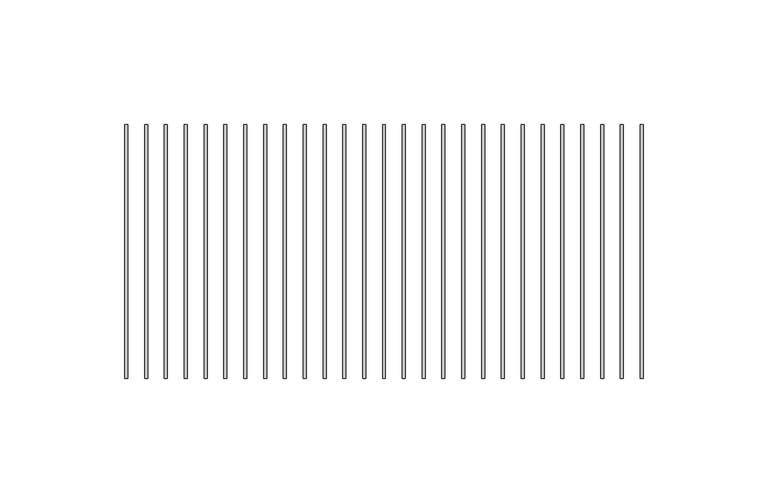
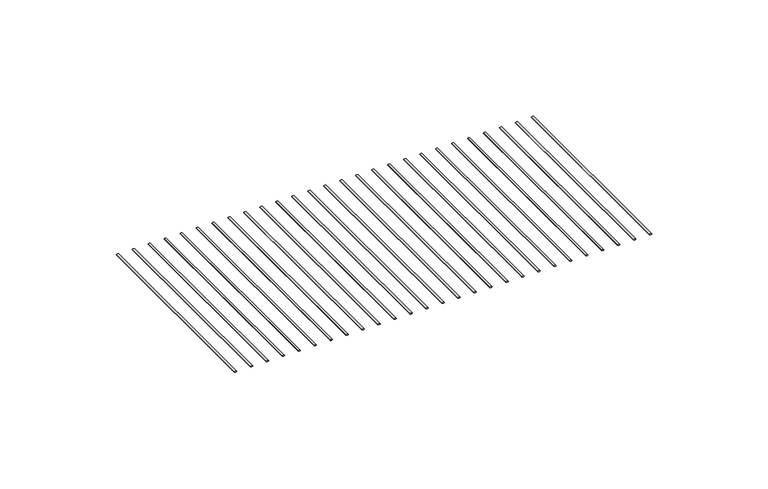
"""IFC4 building model written with IfcOpenShell, lengths in millimetres: proxy geometry, CRAi Generic Model Mesh Piece Face Based : CRAi Generic Model Mesh Piece Face Based."""

from ifc_helpers import new_model, si_unit, point, frame, origin, place, context, project, spatial, ellipse_curve, trimmed, source, transform, mapped, element, save
from ifc_brep_helpers import plane_surface, extruded_surface, advanced_brep


def generic_models_9b4c3a2c(model_context):
    return source(origin(), model_context, "Body", "AdvancedBrep", [
        advanced_brep(
        [(-45.8390625, 50.8, -2.5796875), (-44.6484375, 50.8, -2.5796875), (-45.8390625, -50.8, -2.5796875), (-44.6484375, -50.8, -2.5796875)],
        [
            (0, 1, ellipse_curve(frame((-45.24375, 50.8, -2.5796875), z_axis=(0.0, 1.0, 0.0), x_axis=(1.0, 0.0, 0.0)), 0.5953125, 0.1984375)),
            (1, 0, ellipse_curve(frame((-45.24375, 50.8, -2.5796875), z_axis=(0.0, 1.0, 0.0), x_axis=(1.0, 0.0, 0.0)), 0.5953125, 0.1984375)),
            (2, 3, ellipse_curve(frame((-45.24375, -50.8, -2.5796875), z_axis=(0.0, -1.0, 0.0), x_axis=(1.0, 0.0, 0.0)), 0.5953125, 0.1984375)),
            (3, 2, ellipse_curve(frame((-45.24375, -50.8, -2.5796875), z_axis=(0.0, -1.0, 0.0), x_axis=(1.0, 0.0, 0.0)), 0.5953125, 0.1984375)),
            (1, 3),
            (2, 0),
        ],
        [
            plane_surface(frame((-45.24375, 50.8, -2.5796875), z_axis=(0.0, 1.0, 0.0), x_axis=(0.0, 0.0, 1.0))),
            plane_surface(frame((-45.24375, -50.8, -2.5796875), z_axis=(0.0, -1.0, 0.0), x_axis=(0.0, 0.0, 1.0))),
            extruded_surface(trimmed(ellipse_curve(frame((-45.24375, 50.8, -2.5796875), z_axis=(0.0, -1.0, 0.0), x_axis=(1.0, 0.0, 0.0)), 0.5953125, 0.1984375), [point((-45.8390625, 50.8, -2.5796875))], [point((-44.6484375, 50.8, -2.5796875))], True, "CARTESIAN"), (0.0, -101.6, 0.0), 101.6),
            extruded_surface(trimmed(ellipse_curve(frame((-45.24375, 50.8, -2.5796875), z_axis=(0.0, -1.0, 0.0), x_axis=(1.0, 0.0, 0.0)), 0.5953125, 0.1984375), [point((-44.6484375, 50.8, -2.5796875))], [point((-45.8390625, 50.8, -2.5796875))], True, "CARTESIAN"), (0.0, -101.6, 0.0), 101.6),
        ],
        [
            (0, [[1, 2]]),
            (1, [[3, 4]]),
            (2, [[5, -3, 6, -2]]),
            (3, [[-6, -4, -5, -1]]),
        ],
    ),
        advanced_brep(
        [(-37.9015625, 50.8, -2.5796875), (-36.7109375, 50.8, -2.5796875), (-37.9015625, -50.8, -2.5796875), (-36.7109375, -50.8, -2.5796875)],
        [
            (0, 1, ellipse_curve(frame((-37.30625, 50.8, -2.5796875), z_axis=(0.0, 1.0, 0.0), x_axis=(1.0, 0.0, 0.0)), 0.5953125, 0.1984375)),
            (1, 0, ellipse_curve(frame((-37.30625, 50.8, -2.5796875), z_axis=(0.0, 1.0, 0.0), x_axis=(1.0, 0.0, 0.0)), 0.5953125, 0.1984375)),
            (2, 3, ellipse_curve(frame((-37.30625, -50.8, -2.5796875), z_axis=(0.0, -1.0, 0.0), x_axis=(1.0, 0.0, 0.0)), 0.5953125, 0.1984375)),
            (3, 2, ellipse_curve(frame((-37.30625, -50.8, -2.5796875), z_axis=(0.0, -1.0, 0.0), x_axis=(1.0, 0.0, 0.0)), 0.5953125, 0.1984375)),
            (1, 3),
            (2, 0),
        ],
        [
            plane_surface(frame((-37.30625, 50.8, -2.5796875), z_axis=(0.0, 1.0, 0.0), x_axis=(0.0, 0.0, 1.0))),
            plane_surface(frame((-37.30625, -50.8, -2.5796875), z_axis=(0.0, -1.0, 0.0), x_axis=(0.0, 0.0, 1.0))),
            extruded_surface(trimmed(ellipse_curve(frame((-37.30625, 50.8, -2.5796875), z_axis=(0.0, -1.0, 0.0), x_axis=(1.0, 0.0, 0.0)), 0.5953125, 0.1984375), [point((-37.9015625, 50.8, -2.5796875))], [point((-36.7109375, 50.8, -2.5796875))], True, "CARTESIAN"), (0.0, -101.6, 0.0), 101.6),
            extruded_surface(trimmed(ellipse_curve(frame((-37.30625, 50.8, -2.5796875), z_axis=(0.0, -1.0, 0.0), x_axis=(1.0, 0.0, 0.0)), 0.5953125, 0.1984375), [point((-36.7109375, 50.8, -2.5796875))], [point((-37.9015625, 50.8, -2.5796875))], True, "CARTESIAN"), (0.0, -101.6, 0.0), 101.6),
        ],
        [
            (0, [[1, 2]]),
            (1, [[3, 4]]),
            (2, [[5, -3, 6, -2]]),
            (3, [[-6, -4, -5, -1]]),
        ],
    ),
        advanced_brep(
        [(-29.9640625, 50.8, -2.5796875), (-28.7734375, 50.8, -2.5796875), (-29.9640625, -50.8, -2.5796875), (-28.7734375, -50.8, -2.5796875)],
        [
            (0, 1, ellipse_curve(frame((-29.36875, 50.8, -2.5796875), z_axis=(0.0, 1.0, 0.0), x_axis=(1.0, 0.0, 0.0)), 0.5953125, 0.1984375)),
            (1, 0, ellipse_curve(frame((-29.36875, 50.8, -2.5796875), z_axis=(0.0, 1.0, 0.0), x_axis=(1.0, 0.0, 0.0)), 0.5953125, 0.1984375)),
            (2, 3, ellipse_curve(frame((-29.36875, -50.8, -2.5796875), z_axis=(0.0, -1.0, 0.0), x_axis=(1.0, 0.0, 0.0)), 0.5953125, 0.1984375)),
            (3, 2, ellipse_curve(frame((-29.36875, -50.8, -2.5796875), z_axis=(0.0, -1.0, 0.0), x_axis=(1.0, 0.0, 0.0)), 0.5953125, 0.1984375)),
            (1, 3),
            (2, 0),
        ],
        [
            plane_surface(frame((-29.36875, 50.8, -2.5796875), z_axis=(0.0, 1.0, 0.0), x_axis=(0.0, 0.0, 1.0))),
            plane_surface(frame((-29.36875, -50.8, -2.5796875), z_axis=(0.0, -1.0, 0.0), x_axis=(0.0, 0.0, 1.0))),
            extruded_surface(trimmed(ellipse_curve(frame((-29.36875, 50.8, -2.5796875), z_axis=(0.0, -1.0, 0.0), x_axis=(1.0, 0.0, 0.0)), 0.5953125, 0.1984375), [point((-29.9640625, 50.8, -2.5796875))], [point((-28.7734375, 50.8, -2.5796875))], True, "CARTESIAN"), (0.0, -101.6, 0.0), 101.6),
            extruded_surface(trimmed(ellipse_curve(frame((-29.36875, 50.8, -2.5796875), z_axis=(0.0, -1.0, 0.0), x_axis=(1.0, 0.0, 0.0)), 0.5953125, 0.1984375), [point((-28.7734375, 50.8, -2.5796875))], [point((-29.9640625, 50.8, -2.5796875))], True, "CARTESIAN"), (0.0, -101.6, 0.0), 101.6),
        ],
        [
            (0, [[1, 2]]),
            (1, [[3, 4]]),
            (2, [[5, -3, 6, -2]]),
            (3, [[-6, -4, -5, -1]]),
        ],
    ),
        advanced_brep(
        [(-22.0265625, 50.8, -2.5796875), (-20.8359375, 50.8, -2.5796875), (-22.0265625, -50.8, -2.5796875), (-20.8359375, -50.8, -2.5796875)],
        [
            (0, 1, ellipse_curve(frame((-21.43125, 50.8, -2.5796875), z_axis=(0.0, 1.0, 0.0), x_axis=(1.0, 0.0, 0.0)), 0.5953125, 0.1984375)),
            (1, 0, ellipse_curve(frame((-21.43125, 50.8, -2.5796875), z_axis=(0.0, 1.0, 0.0), x_axis=(1.0, 0.0, 0.0)), 0.5953125, 0.1984375)),
            (2, 3, ellipse_curve(frame((-21.43125, -50.8, -2.5796875), z_axis=(0.0, -1.0, 0.0), x_axis=(1.0, 0.0, 0.0)), 0.5953125, 0.1984375)),
            (3, 2, ellipse_curve(frame((-21.43125, -50.8, -2.5796875), z_axis=(0.0, -1.0, 0.0), x_axis=(1.0, 0.0, 0.0)), 0.5953125, 0.1984375)),
            (1, 3),
            (2, 0),
        ],
        [
            plane_surface(frame((-21.43125, 50.8, -2.5796875), z_axis=(0.0, 1.0, 0.0), x_axis=(0.0, 0.0, 1.0))),
            plane_surface(frame((-21.43125, -50.8, -2.5796875), z_axis=(0.0, -1.0, 0.0), x_axis=(0.0, 0.0, 1.0))),
            extruded_surface(trimmed(ellipse_curve(frame((-21.43125, 50.8, -2.5796875), z_axis=(0.0, -1.0, 0.0), x_axis=(1.0, 0.0, 0.0)), 0.5953125, 0.1984375), [point((-22.0265625, 50.8, -2.5796875))], [point((-20.8359375, 50.8, -2.5796875))], True, "CARTESIAN"), (0.0, -101.6, 0.0), 101.6),
            extruded_surface(trimmed(ellipse_curve(frame((-21.43125, 50.8, -2.5796875), z_axis=(0.0, -1.0, 0.0), x_axis=(1.0, 0.0, 0.0)), 0.5953125, 0.1984375), [point((-20.8359375, 50.8, -2.5796875))], [point((-22.0265625, 50.8, -2.5796875))], True, "CARTESIAN"), (0.0, -101.6, 0.0), 101.6),
        ],
        [
            (0, [[1, 2]]),
            (1, [[3, 4]]),
            (2, [[5, -3, 6, -2]]),
            (3, [[-6, -4, -5, -1]]),
        ],
    ),
        advanced_brep(
        [(-14.0890625, 50.8, -2.5796875), (-12.8984375, 50.8, -2.5796875), (-14.0890625, -50.8, -2.5796875), (-12.8984375, -50.8, -2.5796875)],
        [
            (0, 1, ellipse_curve(frame((-13.49375, 50.8, -2.5796875), z_axis=(0.0, 1.0, 0.0), x_axis=(1.0, 0.0, 0.0)), 0.5953125, 0.1984375)),
            (1, 0, ellipse_curve(frame((-13.49375, 50.8, -2.5796875), z_axis=(0.0, 1.0, 0.0), x_axis=(1.0, 0.0, 0.0)), 0.5953125, 0.1984375)),
            (2, 3, ellipse_curve(frame((-13.49375, -50.8, -2.5796875), z_axis=(0.0, -1.0, 0.0), x_axis=(1.0, 0.0, 0.0)), 0.5953125, 0.1984375)),
            (3, 2, ellipse_curve(frame((-13.49375, -50.8, -2.5796875), z_axis=(0.0, -1.0, 0.0), x_axis=(1.0, 0.0, 0.0)), 0.5953125, 0.1984375)),
            (1, 3),
            (2, 0),
        ],
        [
            plane_surface(frame((-13.49375, 50.8, -2.5796875), z_axis=(0.0, 1.0, 0.0), x_axis=(0.0, 0.0, 1.0))),
            plane_surface(frame((-13.49375, -50.8, -2.5796875), z_axis=(0.0, -1.0, 0.0), x_axis=(0.0, 0.0, 1.0))),
            extruded_surface(trimmed(ellipse_curve(frame((-13.49375, 50.8, -2.5796875), z_axis=(0.0, -1.0, 0.0), x_axis=(1.0, 0.0, 0.0)), 0.5953125, 0.1984375), [point((-14.0890625, 50.8, -2.5796875))], [point((-12.8984375, 50.8, -2.5796875))], True, "CARTESIAN"), (0.0, -101.6, 0.0), 101.6),
            extruded_surface(trimmed(ellipse_curve(frame((-13.49375, 50.8, -2.5796875), z_axis=(0.0, -1.0, 0.0), x_axis=(1.0, 0.0, 0.0)), 0.5953125, 0.1984375), [point((-12.8984375, 50.8, -2.5796875))], [point((-14.0890625, 50.8, -2.5796875))], True, "CARTESIAN"), (0.0, -101.6, 0.0), 101.6),
        ],
        [
            (0, [[1, 2]]),
            (1, [[3, 4]]),
            (2, [[5, -3, 6, -2]]),
            (3, [[-6, -4, -5, -1]]),
        ],
    ),
        advanced_brep(
        [(-6.1515625, 50.8, -2.5796875), (-4.9609375, 50.8, -2.5796875), (-6.1515625, -50.8, -2.5796875), (-4.9609375, -50.8, -2.5796875)],
        [
            (0, 1, ellipse_curve(frame((-5.55625, 50.8, -2.5796875), z_axis=(0.0, 1.0, 0.0), x_axis=(1.0, 0.0, 0.0)), 0.5953125, 0.1984375)),
            (1, 0, ellipse_curve(frame((-5.55625, 50.8, -2.5796875), z_axis=(0.0, 1.0, 0.0), x_axis=(1.0, 0.0, 0.0)), 0.5953125, 0.1984375)),
            (2, 3, ellipse_curve(frame((-5.55625, -50.8, -2.5796875), z_axis=(0.0, -1.0, 0.0), x_axis=(1.0, 0.0, 0.0)), 0.5953125, 0.1984375)),
            (3, 2, ellipse_curve(frame((-5.55625, -50.8, -2.5796875), z_axis=(0.0, -1.0, 0.0), x_axis=(1.0, 0.0, 0.0)), 0.5953125, 0.1984375)),
            (1, 3),
            (2, 0),
        ],
        [
            plane_surface(frame((-5.55625, 50.8, -2.5796875), z_axis=(0.0, 1.0, 0.0), x_axis=(0.0, 0.0, 1.0))),
            plane_surface(frame((-5.55625, -50.8, -2.5796875), z_axis=(0.0, -1.0, 0.0), x_axis=(0.0, 0.0, 1.0))),
            extruded_surface(trimmed(ellipse_curve(frame((-5.55625, 50.8, -2.5796875), z_axis=(0.0, -1.0, 0.0), x_axis=(1.0, 0.0, 0.0)), 0.5953125, 0.1984375), [point((-6.1515625, 50.8, -2.5796875))], [point((-4.9609375, 50.8, -2.5796875))], True, "CARTESIAN"), (0.0, -101.6, 0.0), 101.6),
            extruded_surface(trimmed(ellipse_curve(frame((-5.55625, 50.8, -2.5796875), z_axis=(0.0, -1.0, 0.0), x_axis=(1.0, 0.0, 0.0)), 0.5953125, 0.1984375), [point((-4.9609375, 50.8, -2.5796875))], [point((-6.1515625, 50.8, -2.5796875))], True, "CARTESIAN"), (0.0, -101.6, 0.0), 101.6),
        ],
        [
            (0, [[1, 2]]),
            (1, [[3, 4]]),
            (2, [[5, -3, 6, -2]]),
            (3, [[-6, -4, -5, -1]]),
        ],
    ),
        advanced_brep(
        [(1.7859375, 50.8, -2.5796875), (2.9765625, 50.8, -2.5796875), (1.7859375, -50.8, -2.5796875), (2.9765625, -50.8, -2.5796875)],
        [
            (0, 1, ellipse_curve(frame((2.38125, 50.8, -2.5796875), z_axis=(0.0, 1.0, 0.0), x_axis=(1.0, 0.0, 0.0)), 0.5953125, 0.1984375)),
            (1, 0, ellipse_curve(frame((2.38125, 50.8, -2.5796875), z_axis=(0.0, 1.0, 0.0), x_axis=(1.0, 0.0, 0.0)), 0.5953125, 0.1984375)),
            (2, 3, ellipse_curve(frame((2.38125, -50.8, -2.5796875), z_axis=(0.0, -1.0, 0.0), x_axis=(1.0, 0.0, 0.0)), 0.5953125, 0.1984375)),
            (3, 2, ellipse_curve(frame((2.38125, -50.8, -2.5796875), z_axis=(0.0, -1.0, 0.0), x_axis=(1.0, 0.0, 0.0)), 0.5953125, 0.1984375)),
            (1, 3),
            (2, 0),
        ],
        [
            plane_surface(frame((2.38125, 50.8, -2.5796875), z_axis=(0.0, 1.0, 0.0), x_axis=(0.0, 0.0, 1.0))),
            plane_surface(frame((2.38125, -50.8, -2.5796875), z_axis=(0.0, -1.0, 0.0), x_axis=(0.0, 0.0, 1.0))),
            extruded_surface(trimmed(ellipse_curve(frame((2.38125, 50.8, -2.5796875), z_axis=(0.0, -1.0, 0.0), x_axis=(1.0, 0.0, 0.0)), 0.5953125, 0.1984375), [point((1.7859375, 50.8, -2.5796875))], [point((2.9765625, 50.8, -2.5796875))], True, "CARTESIAN"), (0.0, -101.6, 0.0), 101.6),
            extruded_surface(trimmed(ellipse_curve(frame((2.38125, 50.8, -2.5796875), z_axis=(0.0, -1.0, 0.0), x_axis=(1.0, 0.0, 0.0)), 0.5953125, 0.1984375), [point((2.9765625, 50.8, -2.5796875))], [point((1.7859375, 50.8, -2.5796875))], True, "CARTESIAN"), (0.0, -101.6, 0.0), 101.6),
        ],
        [
            (0, [[1, 2]]),
            (1, [[3, 4]]),
            (2, [[5, -3, 6, -2]]),
            (3, [[-6, -4, -5, -1]]),
        ],
    ),
        advanced_brep(
        [(9.7234375, 50.8, -2.5796875), (10.9140625, 50.8, -2.5796875), (9.7234375, -50.8, -2.5796875), (10.9140625, -50.8, -2.5796875)],
        [
            (0, 1, ellipse_curve(frame((10.31875, 50.8, -2.5796875), z_axis=(0.0, 1.0, 0.0), x_axis=(1.0, 0.0, 0.0)), 0.5953125, 0.1984375)),
            (1, 0, ellipse_curve(frame((10.31875, 50.8, -2.5796875), z_axis=(0.0, 1.0, 0.0), x_axis=(1.0, 0.0, 0.0)), 0.5953125, 0.1984375)),
            (2, 3, ellipse_curve(frame((10.31875, -50.8, -2.5796875), z_axis=(0.0, -1.0, 0.0), x_axis=(1.0, 0.0, 0.0)), 0.5953125, 0.1984375)),
            (3, 2, ellipse_curve(frame((10.31875, -50.8, -2.5796875), z_axis=(0.0, -1.0, 0.0), x_axis=(1.0, 0.0, 0.0)), 0.5953125, 0.1984375)),
            (1, 3),
            (2, 0),
        ],
        [
            plane_surface(frame((10.31875, 50.8, -2.5796875), z_axis=(0.0, 1.0, 0.0), x_axis=(0.0, 0.0, 1.0))),
            plane_surface(frame((10.31875, -50.8, -2.5796875), z_axis=(0.0, -1.0, 0.0), x_axis=(0.0, 0.0, 1.0))),
            extruded_surface(trimmed(ellipse_curve(frame((10.31875, 50.8, -2.5796875), z_axis=(0.0, -1.0, 0.0), x_axis=(1.0, 0.0, 0.0)), 0.5953125, 0.1984375), [point((9.7234375, 50.8, -2.5796875))], [point((10.9140625, 50.8, -2.5796875))], True, "CARTESIAN"), (0.0, -101.6, 0.0), 101.6),
            extruded_surface(trimmed(ellipse_curve(frame((10.31875, 50.8, -2.5796875), z_axis=(0.0, -1.0, 0.0), x_axis=(1.0, 0.0, 0.0)), 0.5953125, 0.1984375), [point((10.9140625, 50.8, -2.5796875))], [point((9.7234375, 50.8, -2.5796875))], True, "CARTESIAN"), (0.0, -101.6, 0.0), 101.6),
        ],
        [
            (0, [[1, 2]]),
            (1, [[3, 4]]),
            (2, [[5, -3, 6, -2]]),
            (3, [[-6, -4, -5, -1]]),
        ],
    ),
        advanced_brep(
        [(17.6609375, 50.8, -2.5796875), (18.8515625, 50.8, -2.5796875), (17.6609375, -50.8, -2.5796875), (18.8515625, -50.8, -2.5796875)],
        [
            (0, 1, ellipse_curve(frame((18.25625, 50.8, -2.5796875), z_axis=(0.0, 1.0, 0.0), x_axis=(1.0, 0.0, 0.0)), 0.5953125, 0.1984375)),
            (1, 0, ellipse_curve(frame((18.25625, 50.8, -2.5796875), z_axis=(0.0, 1.0, 0.0), x_axis=(1.0, 0.0, 0.0)), 0.5953125, 0.1984375)),
            (2, 3, ellipse_curve(frame((18.25625, -50.8, -2.5796875), z_axis=(0.0, -1.0, 0.0), x_axis=(1.0, 0.0, 0.0)), 0.5953125, 0.1984375)),
            (3, 2, ellipse_curve(frame((18.25625, -50.8, -2.5796875), z_axis=(0.0, -1.0, 0.0), x_axis=(1.0, 0.0, 0.0)), 0.5953125, 0.1984375)),
            (1, 3),
            (2, 0),
        ],
        [
            plane_surface(frame((18.25625, 50.8, -2.5796875), z_axis=(0.0, 1.0, 0.0), x_axis=(0.0, 0.0, 1.0))),
            plane_surface(frame((18.25625, -50.8, -2.5796875), z_axis=(0.0, -1.0, 0.0), x_axis=(0.0, 0.0, 1.0))),
            extruded_surface(trimmed(ellipse_curve(frame((18.25625, 50.8, -2.5796875), z_axis=(0.0, -1.0, 0.0), x_axis=(1.0, 0.0, 0.0)), 0.5953125, 0.1984375), [point((17.6609375, 50.8, -2.5796875))], [point((18.8515625, 50.8, -2.5796875))], True, "CARTESIAN"), (0.0, -101.6, 0.0), 101.6),
            extruded_surface(trimmed(ellipse_curve(frame((18.25625, 50.8, -2.5796875), z_axis=(0.0, -1.0, 0.0), x_axis=(1.0, 0.0, 0.0)), 0.5953125, 0.1984375), [point((18.8515625, 50.8, -2.5796875))], [point((17.6609375, 50.8, -2.5796875))], True, "CARTESIAN"), (0.0, -101.6, 0.0), 101.6),
        ],
        [
            (0, [[1, 2]]),
            (1, [[3, 4]]),
            (2, [[5, -3, 6, -2]]),
            (3, [[-6, -4, -5, -1]]),
        ],
    ),
        advanced_brep(
        [(25.5984375, 50.8, -2.5796875), (26.7890625, 50.8, -2.5796875), (25.5984375, -50.8, -2.5796875), (26.7890625, -50.8, -2.5796875)],
        [
            (0, 1, ellipse_curve(frame((26.19375, 50.8, -2.5796875), z_axis=(0.0, 1.0, 0.0), x_axis=(1.0, 0.0, 0.0)), 0.5953125, 0.1984375)),
            (1, 0, ellipse_curve(frame((26.19375, 50.8, -2.5796875), z_axis=(0.0, 1.0, 0.0), x_axis=(1.0, 0.0, 0.0)), 0.5953125, 0.1984375)),
            (2, 3, ellipse_curve(frame((26.19375, -50.8, -2.5796875), z_axis=(0.0, -1.0, 0.0), x_axis=(1.0, 0.0, 0.0)), 0.5953125, 0.1984375)),
            (3, 2, ellipse_curve(frame((26.19375, -50.8, -2.5796875), z_axis=(0.0, -1.0, 0.0), x_axis=(1.0, 0.0, 0.0)), 0.5953125, 0.1984375)),
            (1, 3),
            (2, 0),
        ],
        [
            plane_surface(frame((26.19375, 50.8, -2.5796875), z_axis=(0.0, 1.0, 0.0), x_axis=(0.0, 0.0, 1.0))),
            plane_surface(frame((26.19375, -50.8, -2.5796875), z_axis=(0.0, -1.0, 0.0), x_axis=(0.0, 0.0, 1.0))),
            extruded_surface(trimmed(ellipse_curve(frame((26.19375, 50.8, -2.5796875), z_axis=(0.0, -1.0, 0.0), x_axis=(1.0, 0.0, 0.0)), 0.5953125, 0.1984375), [point((25.5984375, 50.8, -2.5796875))], [point((26.7890625, 50.8, -2.5796875))], True, "CARTESIAN"), (0.0, -101.6, 0.0), 101.6),
            extruded_surface(trimmed(ellipse_curve(frame((26.19375, 50.8, -2.5796875), z_axis=(0.0, -1.0, 0.0), x_axis=(1.0, 0.0, 0.0)), 0.5953125, 0.1984375), [point((26.7890625, 50.8, -2.5796875))], [point((25.5984375, 50.8, -2.5796875))], True, "CARTESIAN"), (0.0, -101.6, 0.0), 101.6),
        ],
        [
            (0, [[1, 2]]),
            (1, [[3, 4]]),
            (2, [[5, -3, 6, -2]]),
            (3, [[-6, -4, -5, -1]]),
        ],
    ),
        advanced_brep(
        [(33.5359375, 50.8, -2.5796875), (34.7265625, 50.8, -2.5796875), (33.5359375, -50.8, -2.5796875), (34.7265625, -50.8, -2.5796875)],
        [
            (0, 1, ellipse_curve(frame((34.13125, 50.8, -2.5796875), z_axis=(0.0, 1.0, 0.0), x_axis=(1.0, 0.0, 0.0)), 0.5953125, 0.1984375)),
            (1, 0, ellipse_curve(frame((34.13125, 50.8, -2.5796875), z_axis=(0.0, 1.0, 0.0), x_axis=(1.0, 0.0, 0.0)), 0.5953125, 0.1984375)),
            (2, 3, ellipse_curve(frame((34.13125, -50.8, -2.5796875), z_axis=(0.0, -1.0, 0.0), x_axis=(1.0, 0.0, 0.0)), 0.5953125, 0.1984375)),
            (3, 2, ellipse_curve(frame((34.13125, -50.8, -2.5796875), z_axis=(0.0, -1.0, 0.0), x_axis=(1.0, 0.0, 0.0)), 0.5953125, 0.1984375)),
            (1, 3),
            (2, 0),
        ],
        [
            plane_surface(frame((34.13125, 50.8, -2.5796875), z_axis=(0.0, 1.0, 0.0), x_axis=(0.0, 0.0, 1.0))),
            plane_surface(frame((34.13125, -50.8, -2.5796875), z_axis=(0.0, -1.0, 0.0), x_axis=(0.0, 0.0, 1.0))),
            extruded_surface(trimmed(ellipse_curve(frame((34.13125, 50.8, -2.5796875), z_axis=(0.0, -1.0, 0.0), x_axis=(1.0, 0.0, 0.0)), 0.5953125, 0.1984375), [point((33.5359375, 50.8, -2.5796875))], [point((34.7265625, 50.8, -2.5796875))], True, "CARTESIAN"), (0.0, -101.6, 0.0), 101.6),
            extruded_surface(trimmed(ellipse_curve(frame((34.13125, 50.8, -2.5796875), z_axis=(0.0, -1.0, 0.0), x_axis=(1.0, 0.0, 0.0)), 0.5953125, 0.1984375), [point((34.7265625, 50.8, -2.5796875))], [point((33.5359375, 50.8, -2.5796875))], True, "CARTESIAN"), (0.0, -101.6, 0.0), 101.6),
        ],
        [
            (0, [[1, 2]]),
            (1, [[3, 4]]),
            (2, [[5, -3, 6, -2]]),
            (3, [[-6, -4, -5, -1]]),
        ],
    ),
        advanced_brep(
        [(41.4734375, 50.8, -2.5796875), (42.6640625, 50.8, -2.5796875), (41.4734375, -50.8, -2.5796875), (42.6640625, -50.8, -2.5796875)],
        [
            (0, 1, ellipse_curve(frame((42.06875, 50.8, -2.5796875), z_axis=(0.0, 1.0, 0.0), x_axis=(1.0, 0.0, 0.0)), 0.5953125, 0.1984375)),
            (1, 0, ellipse_curve(frame((42.06875, 50.8, -2.5796875), z_axis=(0.0, 1.0, 0.0), x_axis=(1.0, 0.0, 0.0)), 0.5953125, 0.1984375)),
            (2, 3, ellipse_curve(frame((42.06875, -50.8, -2.5796875), z_axis=(0.0, -1.0, 0.0), x_axis=(1.0, 0.0, 0.0)), 0.5953125, 0.1984375)),
            (3, 2, ellipse_curve(frame((42.06875, -50.8, -2.5796875), z_axis=(0.0, -1.0, 0.0), x_axis=(1.0, 0.0, 0.0)), 0.5953125, 0.1984375)),
            (1, 3),
            (2, 0),
        ],
        [
            plane_surface(frame((42.06875, 50.8, -2.5796875), z_axis=(0.0, 1.0, 0.0), x_axis=(0.0, 0.0, 1.0))),
            plane_surface(frame((42.06875, -50.8, -2.5796875), z_axis=(0.0, -1.0, 0.0), x_axis=(0.0, 0.0, 1.0))),
            extruded_surface(trimmed(ellipse_curve(frame((42.06875, 50.8, -2.5796875), z_axis=(0.0, -1.0, 0.0), x_axis=(1.0, 0.0, 0.0)), 0.5953125, 0.1984375), [point((41.4734375, 50.8, -2.5796875))], [point((42.6640625, 50.8, -2.5796875))], True, "CARTESIAN"), (0.0, -101.6, 0.0), 101.6),
            extruded_surface(trimmed(ellipse_curve(frame((42.06875, 50.8, -2.5796875), z_axis=(0.0, -1.0, 0.0), x_axis=(1.0, 0.0, 0.0)), 0.5953125, 0.1984375), [point((42.6640625, 50.8, -2.5796875))], [point((41.4734375, 50.8, -2.5796875))], True, "CARTESIAN"), (0.0, -101.6, 0.0), 101.6),
        ],
        [
            (0, [[1, 2]]),
            (1, [[3, 4]]),
            (2, [[5, -3, 6, -2]]),
            (3, [[-6, -4, -5, -1]]),
        ],
    ),
        advanced_brep(
        [(49.4109375, 50.8, -2.5796875), (50.6015625, 50.8, -2.5796875), (49.4109375, -50.8, -2.5796875), (50.6015625, -50.8, -2.5796875)],
        [
            (0, 1, ellipse_curve(frame((50.00625, 50.8, -2.5796875), z_axis=(0.0, 1.0, 0.0), x_axis=(1.0, 0.0, 0.0)), 0.5953125, 0.1984375)),
            (1, 0, ellipse_curve(frame((50.00625, 50.8, -2.5796875), z_axis=(0.0, 1.0, 0.0), x_axis=(1.0, 0.0, 0.0)), 0.5953125, 0.1984375)),
            (2, 3, ellipse_curve(frame((50.00625, -50.8, -2.5796875), z_axis=(0.0, -1.0, 0.0), x_axis=(1.0, 0.0, 0.0)), 0.5953125, 0.1984375)),
            (3, 2, ellipse_curve(frame((50.00625, -50.8, -2.5796875), z_axis=(0.0, -1.0, 0.0), x_axis=(1.0, 0.0, 0.0)), 0.5953125, 0.1984375)),
            (1, 3),
            (2, 0),
        ],
        [
            plane_surface(frame((50.00625, 50.8, -2.5796875), z_axis=(0.0, 1.0, 0.0), x_axis=(0.0, 0.0, 1.0))),
            plane_surface(frame((50.00625, -50.8, -2.5796875), z_axis=(0.0, -1.0, 0.0), x_axis=(0.0, 0.0, 1.0))),
            extruded_surface(trimmed(ellipse_curve(frame((50.00625, 50.8, -2.5796875), z_axis=(0.0, -1.0, 0.0), x_axis=(1.0, 0.0, 0.0)), 0.5953125, 0.1984375), [point((49.4109375, 50.8, -2.5796875))], [point((50.6015625, 50.8, -2.5796875))], True, "CARTESIAN"), (0.0, -101.6, 0.0), 101.6),
            extruded_surface(trimmed(ellipse_curve(frame((50.00625, 50.8, -2.5796875), z_axis=(0.0, -1.0, 0.0), x_axis=(1.0, 0.0, 0.0)), 0.5953125, 0.1984375), [point((50.6015625, 50.8, -2.5796875))], [point((49.4109375, 50.8, -2.5796875))], True, "CARTESIAN"), (0.0, -101.6, 0.0), 101.6),
        ],
        [
            (0, [[1, 2]]),
            (1, [[3, 4]]),
            (2, [[5, -3, 6, -2]]),
            (3, [[-6, -4, -5, -1]]),
        ],
    ),
        advanced_brep(
        [(57.3484375, 50.8, -2.5796875), (58.5390625, 50.8, -2.5796875), (57.3484375, -50.8, -2.5796875), (58.5390625, -50.8, -2.5796875)],
        [
            (0, 1, ellipse_curve(frame((57.94375, 50.8, -2.5796875), z_axis=(0.0, 1.0, 0.0), x_axis=(1.0, 0.0, 0.0)), 0.5953125, 0.1984375)),
            (1, 0, ellipse_curve(frame((57.94375, 50.8, -2.5796875), z_axis=(0.0, 1.0, 0.0), x_axis=(1.0, 0.0, 0.0)), 0.5953125, 0.1984375)),
            (2, 3, ellipse_curve(frame((57.94375, -50.8, -2.5796875), z_axis=(0.0, -1.0, 0.0), x_axis=(1.0, 0.0, 0.0)), 0.5953125, 0.1984375)),
            (3, 2, ellipse_curve(frame((57.94375, -50.8, -2.5796875), z_axis=(0.0, -1.0, 0.0), x_axis=(1.0, 0.0, 0.0)), 0.5953125, 0.1984375)),
            (1, 3),
            (2, 0),
        ],
        [
            plane_surface(frame((57.94375, 50.8, -2.5796875), z_axis=(0.0, 1.0, 0.0), x_axis=(0.0, 0.0, 1.0))),
            plane_surface(frame((57.94375, -50.8, -2.5796875), z_axis=(0.0, -1.0, 0.0), x_axis=(0.0, 0.0, 1.0))),
            extruded_surface(trimmed(ellipse_curve(frame((57.94375, 50.8, -2.5796875), z_axis=(0.0, -1.0, 0.0), x_axis=(1.0, 0.0, 0.0)), 0.5953125, 0.1984375), [point((57.3484375, 50.8, -2.5796875))], [point((58.5390625, 50.8, -2.5796875))], True, "CARTESIAN"), (0.0, -101.6, 0.0), 101.6),
            extruded_surface(trimmed(ellipse_curve(frame((57.94375, 50.8, -2.5796875), z_axis=(0.0, -1.0, 0.0), x_axis=(1.0, 0.0, 0.0)), 0.5953125, 0.1984375), [point((58.5390625, 50.8, -2.5796875))], [point((57.3484375, 50.8, -2.5796875))], True, "CARTESIAN"), (0.0, -101.6, 0.0), 101.6),
        ],
        [
            (0, [[1, 2]]),
            (1, [[3, 4]]),
            (2, [[5, -3, 6, -2]]),
            (3, [[-6, -4, -5, -1]]),
        ],
    ),
        advanced_brep(
        [(65.2859375, 50.8, -2.5796875), (66.4765625, 50.8, -2.5796875), (65.2859375, -50.8, -2.5796875), (66.4765625, -50.8, -2.5796875)],
        [
            (0, 1, ellipse_curve(frame((65.88125, 50.8, -2.5796875), z_axis=(0.0, 1.0, 0.0), x_axis=(1.0, 0.0, 0.0)), 0.5953125, 0.1984375)),
            (1, 0, ellipse_curve(frame((65.88125, 50.8, -2.5796875), z_axis=(0.0, 1.0, 0.0), x_axis=(1.0, 0.0, 0.0)), 0.5953125, 0.1984375)),
            (2, 3, ellipse_curve(frame((65.88125, -50.8, -2.5796875), z_axis=(0.0, -1.0, 0.0), x_axis=(1.0, 0.0, 0.0)), 0.5953125, 0.1984375)),
            (3, 2, ellipse_curve(frame((65.88125, -50.8, -2.5796875), z_axis=(0.0, -1.0, 0.0), x_axis=(1.0, 0.0, 0.0)), 0.5953125, 0.1984375)),
            (1, 3),
            (2, 0),
        ],
        [
            plane_surface(frame((65.88125, 50.8, -2.5796875), z_axis=(0.0, 1.0, 0.0), x_axis=(0.0, 0.0, 1.0))),
            plane_surface(frame((65.88125, -50.8, -2.5796875), z_axis=(0.0, -1.0, 0.0), x_axis=(0.0, 0.0, 1.0))),
            extruded_surface(trimmed(ellipse_curve(frame((65.88125, 50.8, -2.5796875), z_axis=(0.0, -1.0, 0.0), x_axis=(1.0, 0.0, 0.0)), 0.5953125, 0.1984375), [point((65.2859375, 50.8, -2.5796875))], [point((66.4765625, 50.8, -2.5796875))], True, "CARTESIAN"), (0.0, -101.6, 0.0), 101.6),
            extruded_surface(trimmed(ellipse_curve(frame((65.88125, 50.8, -2.5796875), z_axis=(0.0, -1.0, 0.0), x_axis=(1.0, 0.0, 0.0)), 0.5953125, 0.1984375), [point((66.4765625, 50.8, -2.5796875))], [point((65.2859375, 50.8, -2.5796875))], True, "CARTESIAN"), (0.0, -101.6, 0.0), 101.6),
        ],
        [
            (0, [[1, 2]]),
            (1, [[3, 4]]),
            (2, [[5, -3, 6, -2]]),
            (3, [[-6, -4, -5, -1]]),
        ],
    ),
        advanced_brep(
        [(73.2234375, 50.8, -2.5796875), (74.4140625, 50.8, -2.5796875), (73.2234375, -50.8, -2.5796875), (74.4140625, -50.8, -2.5796875)],
        [
            (0, 1, ellipse_curve(frame((73.81875, 50.8, -2.5796875), z_axis=(0.0, 1.0, 0.0), x_axis=(1.0, 0.0, 0.0)), 0.5953125, 0.1984375)),
            (1, 0, ellipse_curve(frame((73.81875, 50.8, -2.5796875), z_axis=(0.0, 1.0, 0.0), x_axis=(1.0, 0.0, 0.0)), 0.5953125, 0.1984375)),
            (2, 3, ellipse_curve(frame((73.81875, -50.8, -2.5796875), z_axis=(0.0, -1.0, 0.0), x_axis=(1.0, 0.0, 0.0)), 0.5953125, 0.1984375)),
            (3, 2, ellipse_curve(frame((73.81875, -50.8, -2.5796875), z_axis=(0.0, -1.0, 0.0), x_axis=(1.0, 0.0, 0.0)), 0.5953125, 0.1984375)),
            (1, 3),
            (2, 0),
        ],
        [
            plane_surface(frame((73.81875, 50.8, -2.5796875), z_axis=(0.0, 1.0, 0.0), x_axis=(0.0, 0.0, 1.0))),
            plane_surface(frame((73.81875, -50.8, -2.5796875), z_axis=(0.0, -1.0, 0.0), x_axis=(0.0, 0.0, 1.0))),
            extruded_surface(trimmed(ellipse_curve(frame((73.81875, 50.8, -2.5796875), z_axis=(0.0, -1.0, 0.0), x_axis=(1.0, 0.0, 0.0)), 0.5953125, 0.1984375), [point((73.2234375, 50.8, -2.5796875))], [point((74.4140625, 50.8, -2.5796875))], True, "CARTESIAN"), (0.0, -101.6, 0.0), 101.6),
            extruded_surface(trimmed(ellipse_curve(frame((73.81875, 50.8, -2.5796875), z_axis=(0.0, -1.0, 0.0), x_axis=(1.0, 0.0, 0.0)), 0.5953125, 0.1984375), [point((74.4140625, 50.8, -2.5796875))], [point((73.2234375, 50.8, -2.5796875))], True, "CARTESIAN"), (0.0, -101.6, 0.0), 101.6),
        ],
        [
            (0, [[1, 2]]),
            (1, [[3, 4]]),
            (2, [[5, -3, 6, -2]]),
            (3, [[-6, -4, -5, -1]]),
        ],
    ),
        advanced_brep(
        [(81.1609375, 50.8, -2.5796875), (82.3515625, 50.8, -2.5796875), (81.1609375, -50.8, -2.5796875), (82.3515625, -50.8, -2.5796875)],
        [
            (0, 1, ellipse_curve(frame((81.75625, 50.8, -2.5796875), z_axis=(0.0, 1.0, 0.0), x_axis=(1.0, 0.0, 0.0)), 0.5953125, 0.1984375)),
            (1, 0, ellipse_curve(frame((81.75625, 50.8, -2.5796875), z_axis=(0.0, 1.0, 0.0), x_axis=(1.0, 0.0, 0.0)), 0.5953125, 0.1984375)),
            (2, 3, ellipse_curve(frame((81.75625, -50.8, -2.5796875), z_axis=(0.0, -1.0, 0.0), x_axis=(1.0, 0.0, 0.0)), 0.5953125, 0.1984375)),
            (3, 2, ellipse_curve(frame((81.75625, -50.8, -2.5796875), z_axis=(0.0, -1.0, 0.0), x_axis=(1.0, 0.0, 0.0)), 0.5953125, 0.1984375)),
            (1, 3),
            (2, 0),
        ],
        [
            plane_surface(frame((81.75625, 50.8, -2.5796875), z_axis=(0.0, 1.0, 0.0), x_axis=(0.0, 0.0, 1.0))),
            plane_surface(frame((81.75625, -50.8, -2.5796875), z_axis=(0.0, -1.0, 0.0), x_axis=(0.0, 0.0, 1.0))),
            extruded_surface(trimmed(ellipse_curve(frame((81.75625, 50.8, -2.5796875), z_axis=(0.0, -1.0, 0.0), x_axis=(1.0, 0.0, 0.0)), 0.5953125, 0.1984375), [point((81.1609375, 50.8, -2.5796875))], [point((82.3515625, 50.8, -2.5796875))], True, "CARTESIAN"), (0.0, -101.6, 0.0), 101.6),
            extruded_surface(trimmed(ellipse_curve(frame((81.75625, 50.8, -2.5796875), z_axis=(0.0, -1.0, 0.0), x_axis=(1.0, 0.0, 0.0)), 0.5953125, 0.1984375), [point((82.3515625, 50.8, -2.5796875))], [point((81.1609375, 50.8, -2.5796875))], True, "CARTESIAN"), (0.0, -101.6, 0.0), 101.6),
        ],
        [
            (0, [[1, 2]]),
            (1, [[3, 4]]),
            (2, [[5, -3, 6, -2]]),
            (3, [[-6, -4, -5, -1]]),
        ],
    ),
        advanced_brep(
        [(89.0984375, 50.8, -2.5796875), (90.2890625, 50.8, -2.5796875), (89.0984375, -50.8, -2.5796875), (90.2890625, -50.8, -2.5796875)],
        [
            (0, 1, ellipse_curve(frame((89.69375, 50.8, -2.5796875), z_axis=(0.0, 1.0, 0.0), x_axis=(1.0, 0.0, 0.0)), 0.5953125, 0.1984375)),
            (1, 0, ellipse_curve(frame((89.69375, 50.8, -2.5796875), z_axis=(0.0, 1.0, 0.0), x_axis=(1.0, 0.0, 0.0)), 0.5953125, 0.1984375)),
            (2, 3, ellipse_curve(frame((89.69375, -50.8, -2.5796875), z_axis=(0.0, -1.0, 0.0), x_axis=(1.0, 0.0, 0.0)), 0.5953125, 0.1984375)),
            (3, 2, ellipse_curve(frame((89.69375, -50.8, -2.5796875), z_axis=(0.0, -1.0, 0.0), x_axis=(1.0, 0.0, 0.0)), 0.5953125, 0.1984375)),
            (1, 3),
            (2, 0),
        ],
        [
            plane_surface(frame((89.69375, 50.8, -2.5796875), z_axis=(0.0, 1.0, 0.0), x_axis=(0.0, 0.0, 1.0))),
            plane_surface(frame((89.69375, -50.8, -2.5796875), z_axis=(0.0, -1.0, 0.0), x_axis=(0.0, 0.0, 1.0))),
            extruded_surface(trimmed(ellipse_curve(frame((89.69375, 50.8, -2.5796875), z_axis=(0.0, -1.0, 0.0), x_axis=(1.0, 0.0, 0.0)), 0.5953125, 0.1984375), [point((89.0984375, 50.8, -2.5796875))], [point((90.2890625, 50.8, -2.5796875))], True, "CARTESIAN"), (0.0, -101.6, 0.0), 101.6),
            extruded_surface(trimmed(ellipse_curve(frame((89.69375, 50.8, -2.5796875), z_axis=(0.0, -1.0, 0.0), x_axis=(1.0, 0.0, 0.0)), 0.5953125, 0.1984375), [point((90.2890625, 50.8, -2.5796875))], [point((89.0984375, 50.8, -2.5796875))], True, "CARTESIAN"), (0.0, -101.6, 0.0), 101.6),
        ],
        [
            (0, [[1, 2]]),
            (1, [[3, 4]]),
            (2, [[5, -3, 6, -2]]),
            (3, [[-6, -4, -5, -1]]),
        ],
    ),
        advanced_brep(
        [(97.0359375, 50.8, -2.5796875), (98.2265625, 50.8, -2.5796875), (97.0359375, -50.8, -2.5796875), (98.2265625, -50.8, -2.5796875)],
        [
            (0, 1, ellipse_curve(frame((97.63125, 50.8, -2.5796875), z_axis=(0.0, 1.0, 0.0), x_axis=(1.0, 0.0, 0.0)), 0.5953125, 0.1984375)),
            (1, 0, ellipse_curve(frame((97.63125, 50.8, -2.5796875), z_axis=(0.0, 1.0, 0.0), x_axis=(1.0, 0.0, 0.0)), 0.5953125, 0.1984375)),
            (2, 3, ellipse_curve(frame((97.63125, -50.8, -2.5796875), z_axis=(0.0, -1.0, 0.0), x_axis=(1.0, 0.0, 0.0)), 0.5953125, 0.1984375)),
            (3, 2, ellipse_curve(frame((97.63125, -50.8, -2.5796875), z_axis=(0.0, -1.0, 0.0), x_axis=(1.0, 0.0, 0.0)), 0.5953125, 0.1984375)),
            (1, 3),
            (2, 0),
        ],
        [
            plane_surface(frame((97.63125, 50.8, -2.5796875), z_axis=(0.0, 1.0, 0.0), x_axis=(0.0, 0.0, 1.0))),
            plane_surface(frame((97.63125, -50.8, -2.5796875), z_axis=(0.0, -1.0, 0.0), x_axis=(0.0, 0.0, 1.0))),
            extruded_surface(trimmed(ellipse_curve(frame((97.63125, 50.8, -2.5796875), z_axis=(0.0, -1.0, 0.0), x_axis=(1.0, 0.0, 0.0)), 0.5953125, 0.1984375), [point((97.0359375, 50.8, -2.5796875))], [point((98.2265625, 50.8, -2.5796875))], True, "CARTESIAN"), (0.0, -101.6, 0.0), 101.6),
            extruded_surface(trimmed(ellipse_curve(frame((97.63125, 50.8, -2.5796875), z_axis=(0.0, -1.0, 0.0), x_axis=(1.0, 0.0, 0.0)), 0.5953125, 0.1984375), [point((98.2265625, 50.8, -2.5796875))], [point((97.0359375, 50.8, -2.5796875))], True, "CARTESIAN"), (0.0, -101.6, 0.0), 101.6),
        ],
        [
            (0, [[1, 2]]),
            (1, [[3, 4]]),
            (2, [[5, -3, 6, -2]]),
            (3, [[-6, -4, -5, -1]]),
        ],
    ),
        advanced_brep(
        [(104.9734375, 50.8, -2.5796875), (106.1640625, 50.8, -2.5796875), (104.9734375, -50.8, -2.5796875), (106.1640625, -50.8, -2.5796875)],
        [
            (0, 1, ellipse_curve(frame((105.56875, 50.8, -2.5796875), z_axis=(0.0, 1.0, 0.0), x_axis=(1.0, 0.0, 0.0)), 0.5953125, 0.1984375)),
            (1, 0, ellipse_curve(frame((105.56875, 50.8, -2.5796875), z_axis=(0.0, 1.0, 0.0), x_axis=(1.0, 0.0, 0.0)), 0.5953125, 0.1984375)),
            (2, 3, ellipse_curve(frame((105.56875, -50.8, -2.5796875), z_axis=(0.0, -1.0, 0.0), x_axis=(1.0, 0.0, 0.0)), 0.5953125, 0.1984375)),
            (3, 2, ellipse_curve(frame((105.56875, -50.8, -2.5796875), z_axis=(0.0, -1.0, 0.0), x_axis=(1.0, 0.0, 0.0)), 0.5953125, 0.1984375)),
            (1, 3),
            (2, 0),
        ],
        [
            plane_surface(frame((105.56875, 50.8, -2.5796875), z_axis=(0.0, 1.0, 0.0), x_axis=(0.0, 0.0, 1.0))),
            plane_surface(frame((105.56875, -50.8, -2.5796875), z_axis=(0.0, -1.0, 0.0), x_axis=(0.0, 0.0, 1.0))),
            extruded_surface(trimmed(ellipse_curve(frame((105.56875, 50.8, -2.5796875), z_axis=(0.0, -1.0, 0.0), x_axis=(1.0, 0.0, 0.0)), 0.5953125, 0.1984375), [point((104.9734375, 50.8, -2.5796875))], [point((106.1640625, 50.8, -2.5796875))], True, "CARTESIAN"), (0.0, -101.6, 0.0), 101.6),
            extruded_surface(trimmed(ellipse_curve(frame((105.56875, 50.8, -2.5796875), z_axis=(0.0, -1.0, 0.0), x_axis=(1.0, 0.0, 0.0)), 0.5953125, 0.1984375), [point((106.1640625, 50.8, -2.5796875))], [point((104.9734375, 50.8, -2.5796875))], True, "CARTESIAN"), (0.0, -101.6, 0.0), 101.6),
        ],
        [
            (0, [[1, 2]]),
            (1, [[3, 4]]),
            (2, [[5, -3, 6, -2]]),
            (3, [[-6, -4, -5, -1]]),
        ],
    ),
        advanced_brep(
        [(112.9109375, 50.8, -2.5796875), (114.1015625, 50.8, -2.5796875), (112.9109375, -50.8, -2.5796875), (114.1015625, -50.8, -2.5796875)],
        [
            (0, 1, ellipse_curve(frame((113.50625, 50.8, -2.5796875), z_axis=(0.0, 1.0, 0.0), x_axis=(1.0, 0.0, 0.0)), 0.5953125, 0.1984375)),
            (1, 0, ellipse_curve(frame((113.50625, 50.8, -2.5796875), z_axis=(0.0, 1.0, 0.0), x_axis=(1.0, 0.0, 0.0)), 0.5953125, 0.1984375)),
            (2, 3, ellipse_curve(frame((113.50625, -50.8, -2.5796875), z_axis=(0.0, -1.0, 0.0), x_axis=(1.0, 0.0, 0.0)), 0.5953125, 0.1984375)),
            (3, 2, ellipse_curve(frame((113.50625, -50.8, -2.5796875), z_axis=(0.0, -1.0, 0.0), x_axis=(1.0, 0.0, 0.0)), 0.5953125, 0.1984375)),
            (1, 3),
            (2, 0),
        ],
        [
            plane_surface(frame((113.50625, 50.8, -2.5796875), z_axis=(0.0, 1.0, 0.0), x_axis=(0.0, 0.0, 1.0))),
            plane_surface(frame((113.50625, -50.8, -2.5796875), z_axis=(0.0, -1.0, 0.0), x_axis=(0.0, 0.0, 1.0))),
            extruded_surface(trimmed(ellipse_curve(frame((113.50625, 50.8, -2.5796875), z_axis=(0.0, -1.0, 0.0), x_axis=(1.0, 0.0, 0.0)), 0.5953125, 0.1984375), [point((112.9109375, 50.8, -2.5796875))], [point((114.1015625, 50.8, -2.5796875))], True, "CARTESIAN"), (0.0, -101.6, 0.0), 101.6),
            extruded_surface(trimmed(ellipse_curve(frame((113.50625, 50.8, -2.5796875), z_axis=(0.0, -1.0, 0.0), x_axis=(1.0, 0.0, 0.0)), 0.5953125, 0.1984375), [point((114.1015625, 50.8, -2.5796875))], [point((112.9109375, 50.8, -2.5796875))], True, "CARTESIAN"), (0.0, -101.6, 0.0), 101.6),
        ],
        [
            (0, [[1, 2]]),
            (1, [[3, 4]]),
            (2, [[5, -3, 6, -2]]),
            (3, [[-6, -4, -5, -1]]),
        ],
    ),
        advanced_brep(
        [(120.8484375, 50.8, -2.5796875), (122.0390625, 50.8, -2.5796875), (120.8484375, -50.8, -2.5796875), (122.0390625, -50.8, -2.5796875)],
        [
            (0, 1, ellipse_curve(frame((121.44375, 50.8, -2.5796875), z_axis=(0.0, 1.0, 0.0), x_axis=(1.0, 0.0, 0.0)), 0.5953125, 0.1984375)),
            (1, 0, ellipse_curve(frame((121.44375, 50.8, -2.5796875), z_axis=(0.0, 1.0, 0.0), x_axis=(1.0, 0.0, 0.0)), 0.5953125, 0.1984375)),
            (2, 3, ellipse_curve(frame((121.44375, -50.8, -2.5796875), z_axis=(0.0, -1.0, 0.0), x_axis=(1.0, 0.0, 0.0)), 0.5953125, 0.1984375)),
            (3, 2, ellipse_curve(frame((121.44375, -50.8, -2.5796875), z_axis=(0.0, -1.0, 0.0), x_axis=(1.0, 0.0, 0.0)), 0.5953125, 0.1984375)),
            (1, 3),
            (2, 0),
        ],
        [
            plane_surface(frame((121.44375, 50.8, -2.5796875), z_axis=(0.0, 1.0, 0.0), x_axis=(0.0, 0.0, 1.0))),
            plane_surface(frame((121.44375, -50.8, -2.5796875), z_axis=(0.0, -1.0, 0.0), x_axis=(0.0, 0.0, 1.0))),
            extruded_surface(trimmed(ellipse_curve(frame((121.44375, 50.8, -2.5796875), z_axis=(0.0, -1.0, 0.0), x_axis=(1.0, 0.0, 0.0)), 0.5953125, 0.1984375), [point((120.8484375, 50.8, -2.5796875))], [point((122.0390625, 50.8, -2.5796875))], True, "CARTESIAN"), (0.0, -101.6, 0.0), 101.6),
            extruded_surface(trimmed(ellipse_curve(frame((121.44375, 50.8, -2.5796875), z_axis=(0.0, -1.0, 0.0), x_axis=(1.0, 0.0, 0.0)), 0.5953125, 0.1984375), [point((122.0390625, 50.8, -2.5796875))], [point((120.8484375, 50.8, -2.5796875))], True, "CARTESIAN"), (0.0, -101.6, 0.0), 101.6),
        ],
        [
            (0, [[1, 2]]),
            (1, [[3, 4]]),
            (2, [[5, -3, 6, -2]]),
            (3, [[-6, -4, -5, -1]]),
        ],
    ),
        advanced_brep(
        [(128.7859375, 50.8, -2.5796875), (129.9765625, 50.8, -2.5796875), (128.7859375, -50.8, -2.5796875), (129.9765625, -50.8, -2.5796875)],
        [
            (0, 1, ellipse_curve(frame((129.38125, 50.8, -2.5796875), z_axis=(0.0, 1.0, 0.0), x_axis=(1.0, 0.0, 0.0)), 0.5953125, 0.1984375)),
            (1, 0, ellipse_curve(frame((129.38125, 50.8, -2.5796875), z_axis=(0.0, 1.0, 0.0), x_axis=(1.0, 0.0, 0.0)), 0.5953125, 0.1984375)),
            (2, 3, ellipse_curve(frame((129.38125, -50.8, -2.5796875), z_axis=(0.0, -1.0, 0.0), x_axis=(1.0, 0.0, 0.0)), 0.5953125, 0.1984375)),
            (3, 2, ellipse_curve(frame((129.38125, -50.8, -2.5796875), z_axis=(0.0, -1.0, 0.0), x_axis=(1.0, 0.0, 0.0)), 0.5953125, 0.1984375)),
            (1, 3),
            (2, 0),
        ],
        [
            plane_surface(frame((129.38125, 50.8, -2.5796875), z_axis=(0.0, 1.0, 0.0), x_axis=(0.0, 0.0, 1.0))),
            plane_surface(frame((129.38125, -50.8, -2.5796875), z_axis=(0.0, -1.0, 0.0), x_axis=(0.0, 0.0, 1.0))),
            extruded_surface(trimmed(ellipse_curve(frame((129.38125, 50.8, -2.5796875), z_axis=(0.0, -1.0, 0.0), x_axis=(1.0, 0.0, 0.0)), 0.5953125, 0.1984375), [point((128.7859375, 50.8, -2.5796875))], [point((129.9765625, 50.8, -2.5796875))], True, "CARTESIAN"), (0.0, -101.6, 0.0), 101.6),
            extruded_surface(trimmed(ellipse_curve(frame((129.38125, 50.8, -2.5796875), z_axis=(0.0, -1.0, 0.0), x_axis=(1.0, 0.0, 0.0)), 0.5953125, 0.1984375), [point((129.9765625, 50.8, -2.5796875))], [point((128.7859375, 50.8, -2.5796875))], True, "CARTESIAN"), (0.0, -101.6, 0.0), 101.6),
        ],
        [
            (0, [[1, 2]]),
            (1, [[3, 4]]),
            (2, [[5, -3, 6, -2]]),
            (3, [[-6, -4, -5, -1]]),
        ],
    ),
        advanced_brep(
        [(136.7234375, 50.8, -2.5796875), (137.9140625, 50.8, -2.5796875), (136.7234375, -50.8, -2.5796875), (137.9140625, -50.8, -2.5796875)],
        [
            (0, 1, ellipse_curve(frame((137.31875, 50.8, -2.5796875), z_axis=(0.0, 1.0, 0.0), x_axis=(1.0, 0.0, 0.0)), 0.5953125, 0.1984375)),
            (1, 0, ellipse_curve(frame((137.31875, 50.8, -2.5796875), z_axis=(0.0, 1.0, 0.0), x_axis=(1.0, 0.0, 0.0)), 0.5953125, 0.1984375)),
            (2, 3, ellipse_curve(frame((137.31875, -50.8, -2.5796875), z_axis=(0.0, -1.0, 0.0), x_axis=(1.0, 0.0, 0.0)), 0.5953125, 0.1984375)),
            (3, 2, ellipse_curve(frame((137.31875, -50.8, -2.5796875), z_axis=(0.0, -1.0, 0.0), x_axis=(1.0, 0.0, 0.0)), 0.5953125, 0.1984375)),
            (1, 3),
            (2, 0),
        ],
        [
            plane_surface(frame((137.31875, 50.8, -2.5796875), z_axis=(0.0, 1.0, 0.0), x_axis=(0.0, 0.0, 1.0))),
            plane_surface(frame((137.31875, -50.8, -2.5796875), z_axis=(0.0, -1.0, 0.0), x_axis=(0.0, 0.0, 1.0))),
            extruded_surface(trimmed(ellipse_curve(frame((137.31875, 50.8, -2.5796875), z_axis=(0.0, -1.0, 0.0), x_axis=(1.0, 0.0, 0.0)), 0.5953125, 0.1984375), [point((136.7234375, 50.8, -2.5796875))], [point((137.9140625, 50.8, -2.5796875))], True, "CARTESIAN"), (0.0, -101.6, 0.0), 101.6),
            extruded_surface(trimmed(ellipse_curve(frame((137.31875, 50.8, -2.5796875), z_axis=(0.0, -1.0, 0.0), x_axis=(1.0, 0.0, 0.0)), 0.5953125, 0.1984375), [point((137.9140625, 50.8, -2.5796875))], [point((136.7234375, 50.8, -2.5796875))], True, "CARTESIAN"), (0.0, -101.6, 0.0), 101.6),
        ],
        [
            (0, [[1, 2]]),
            (1, [[3, 4]]),
            (2, [[5, -3, 6, -2]]),
            (3, [[-6, -4, -5, -1]]),
        ],
    ),
        advanced_brep(
        [(144.6609375, 50.8, -2.5796875), (145.8515625, 50.8, -2.5796875), (144.6609375, -50.8, -2.5796875), (145.8515625, -50.8, -2.5796875)],
        [
            (0, 1, ellipse_curve(frame((145.25625, 50.8, -2.5796875), z_axis=(0.0, 1.0, 0.0), x_axis=(1.0, 0.0, 0.0)), 0.5953125, 0.1984375)),
            (1, 0, ellipse_curve(frame((145.25625, 50.8, -2.5796875), z_axis=(0.0, 1.0, 0.0), x_axis=(1.0, 0.0, 0.0)), 0.5953125, 0.1984375)),
            (2, 3, ellipse_curve(frame((145.25625, -50.8, -2.5796875), z_axis=(0.0, -1.0, 0.0), x_axis=(1.0, 0.0, 0.0)), 0.5953125, 0.1984375)),
            (3, 2, ellipse_curve(frame((145.25625, -50.8, -2.5796875), z_axis=(0.0, -1.0, 0.0), x_axis=(1.0, 0.0, 0.0)), 0.5953125, 0.1984375)),
            (1, 3),
            (2, 0),
        ],
        [
            plane_surface(frame((145.25625, 50.8, -2.5796875), z_axis=(0.0, 1.0, 0.0), x_axis=(0.0, 0.0, 1.0))),
            plane_surface(frame((145.25625, -50.8, -2.5796875), z_axis=(0.0, -1.0, 0.0), x_axis=(0.0, 0.0, 1.0))),
            extruded_surface(trimmed(ellipse_curve(frame((145.25625, 50.8, -2.5796875), z_axis=(0.0, -1.0, 0.0), x_axis=(1.0, 0.0, 0.0)), 0.5953125, 0.1984375), [point((144.6609375, 50.8, -2.5796875))], [point((145.8515625, 50.8, -2.5796875))], True, "CARTESIAN"), (0.0, -101.6, 0.0), 101.6),
            extruded_surface(trimmed(ellipse_curve(frame((145.25625, 50.8, -2.5796875), z_axis=(0.0, -1.0, 0.0), x_axis=(1.0, 0.0, 0.0)), 0.5953125, 0.1984375), [point((145.8515625, 50.8, -2.5796875))], [point((144.6609375, 50.8, -2.5796875))], True, "CARTESIAN"), (0.0, -101.6, 0.0), 101.6),
        ],
        [
            (0, [[1, 2]]),
            (1, [[3, 4]]),
            (2, [[5, -3, 6, -2]]),
            (3, [[-6, -4, -5, -1]]),
        ],
    ),
        advanced_brep(
        [(152.5984375, 50.8, -2.5796875), (153.7890625, 50.8, -2.5796875), (152.5984375, -50.8, -2.5796875), (153.7890625, -50.8, -2.5796875)],
        [
            (0, 1, ellipse_curve(frame((153.19375, 50.8, -2.5796875), z_axis=(0.0, 1.0, 0.0), x_axis=(1.0, 0.0, 0.0)), 0.5953125, 0.1984375)),
            (1, 0, ellipse_curve(frame((153.19375, 50.8, -2.5796875), z_axis=(0.0, 1.0, 0.0), x_axis=(1.0, 0.0, 0.0)), 0.5953125, 0.1984375)),
            (2, 3, ellipse_curve(frame((153.19375, -50.8, -2.5796875), z_axis=(0.0, -1.0, 0.0), x_axis=(1.0, 0.0, 0.0)), 0.5953125, 0.1984375)),
            (3, 2, ellipse_curve(frame((153.19375, -50.8, -2.5796875), z_axis=(0.0, -1.0, 0.0), x_axis=(1.0, 0.0, 0.0)), 0.5953125, 0.1984375)),
            (1, 3),
            (2, 0),
        ],
        [
            plane_surface(frame((153.19375, 50.8, -2.5796875), z_axis=(0.0, 1.0, 0.0), x_axis=(0.0, 0.0, 1.0))),
            plane_surface(frame((153.19375, -50.8, -2.5796875), z_axis=(0.0, -1.0, 0.0), x_axis=(0.0, 0.0, 1.0))),
            extruded_surface(trimmed(ellipse_curve(frame((153.19375, 50.8, -2.5796875), z_axis=(0.0, -1.0, 0.0), x_axis=(1.0, 0.0, 0.0)), 0.5953125, 0.1984375), [point((152.5984375, 50.8, -2.5796875))], [point((153.7890625, 50.8, -2.5796875))], True, "CARTESIAN"), (0.0, -101.6, 0.0), 101.6),
            extruded_surface(trimmed(ellipse_curve(frame((153.19375, 50.8, -2.5796875), z_axis=(0.0, -1.0, 0.0), x_axis=(1.0, 0.0, 0.0)), 0.5953125, 0.1984375), [point((153.7890625, 50.8, -2.5796875))], [point((152.5984375, 50.8, -2.5796875))], True, "CARTESIAN"), (0.0, -101.6, 0.0), 101.6),
        ],
        [
            (0, [[1, 2]]),
            (1, [[3, 4]]),
            (2, [[5, -3, 6, -2]]),
            (3, [[-6, -4, -5, -1]]),
        ],
    ),
        advanced_brep(
        [(160.5359375, 50.8, -2.5796875), (161.7265625, 50.8, -2.5796875), (160.5359375, -50.8, -2.5796875), (161.7265625, -50.8, -2.5796875)],
        [
            (0, 1, ellipse_curve(frame((161.13125, 50.8, -2.5796875), z_axis=(0.0, 1.0, 0.0), x_axis=(1.0, 0.0, 0.0)), 0.5953125, 0.1984375)),
            (1, 0, ellipse_curve(frame((161.13125, 50.8, -2.5796875), z_axis=(0.0, 1.0, 0.0), x_axis=(1.0, 0.0, 0.0)), 0.5953125, 0.1984375)),
            (2, 3, ellipse_curve(frame((161.13125, -50.8, -2.5796875), z_axis=(0.0, -1.0, 0.0), x_axis=(1.0, 0.0, 0.0)), 0.5953125, 0.1984375)),
            (3, 2, ellipse_curve(frame((161.13125, -50.8, -2.5796875), z_axis=(0.0, -1.0, 0.0), x_axis=(1.0, 0.0, 0.0)), 0.5953125, 0.1984375)),
            (1, 3),
            (2, 0),
        ],
        [
            plane_surface(frame((161.13125, 50.8, -2.5796875), z_axis=(0.0, 1.0, 0.0), x_axis=(0.0, 0.0, 1.0))),
            plane_surface(frame((161.13125, -50.8, -2.5796875), z_axis=(0.0, -1.0, 0.0), x_axis=(0.0, 0.0, 1.0))),
            extruded_surface(trimmed(ellipse_curve(frame((161.13125, 50.8, -2.5796875), z_axis=(0.0, -1.0, 0.0), x_axis=(1.0, 0.0, 0.0)), 0.5953125, 0.1984375), [point((160.5359375, 50.8, -2.5796875))], [point((161.7265625, 50.8, -2.5796875))], True, "CARTESIAN"), (0.0, -101.6, 0.0), 101.6),
            extruded_surface(trimmed(ellipse_curve(frame((161.13125, 50.8, -2.5796875), z_axis=(0.0, -1.0, 0.0), x_axis=(1.0, 0.0, 0.0)), 0.5953125, 0.1984375), [point((161.7265625, 50.8, -2.5796875))], [point((160.5359375, 50.8, -2.5796875))], True, "CARTESIAN"), (0.0, -101.6, 0.0), 101.6),
        ],
        [
            (0, [[1, 2]]),
            (1, [[3, 4]]),
            (2, [[5, -3, 6, -2]]),
            (3, [[-6, -4, -5, -1]]),
        ],
    ),
    ])


if __name__ == "__main__":
    model = new_model("IFC4")
    model_context = context("Model", 3, world=origin())
    ifc_project = project(units=[si_unit("LENGTHUNIT", "METRE", prefix="MILLI")], contexts=[model_context])
    site = spatial("IfcSite", under=ifc_project)
    building = spatial("IfcBuilding", under=site)
    placement = place(None, origin())
    generic_models_shape = generic_models_9b4c3a2c(model_context)
    element("IfcBuildingElementProxy", 1, Name="CRAi Generic Model Mesh Piece Face Based : CRAi Generic Model Mesh Piece Face Based", ObjectType="CRAi Generic Model Mesh Piece Face Based : CRAi Generic Model Mesh Piece Face Based", at=placement, inside=building, context=model_context, shape_type="MappedRepresentation", body=[
        mapped(generic_models_shape, transform((0.0, 0.0, 0.0), x_axis=(1.0, 0.0, 0.0), y_axis=(0.0, 1.0, 0.0), z_axis=(0.0, 0.0, 1.0))),
    ])
    save(model, "model.ifc")
